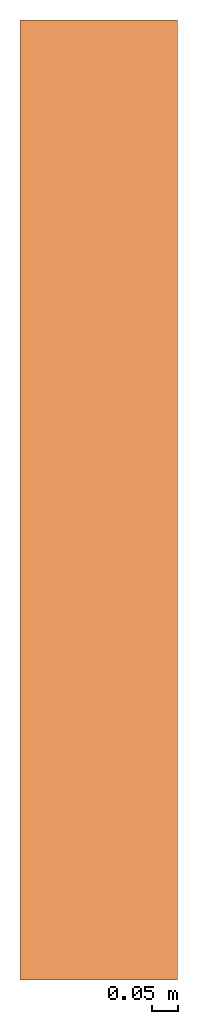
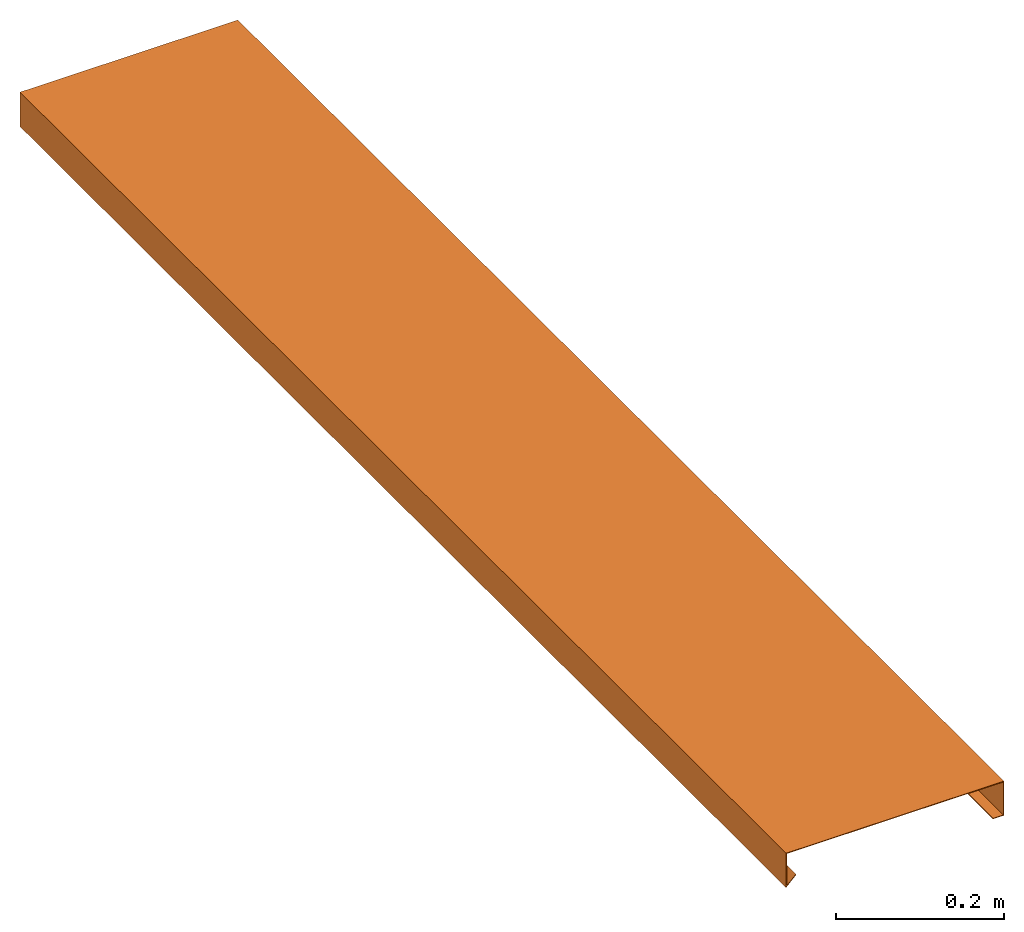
# One storey: 1 proxy.
"""IFC2X3 building model written with IfcOpenShell, lengths in centimetres."""

from ifc_helpers import new_model, entity, si_unit, converted_unit, derived_unit, direction, frame, origin, place, context, subcontext, project, spatial, polyline, outline, extrude, element, save


model = new_model("IFC2X3")

# Units and contexts
model_context = context("Model", 3, precision=0.001, world=origin(), true_north=direction((6.12303176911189e-17, 1.0)))
body_context = subcontext(model_context, "Body", "Model", "MODEL_VIEW")
ifc_project = project(units=[si_unit("LENGTHUNIT", "METRE", prefix="CENTI"), si_unit("AREAUNIT", "SQUARE_METRE"), si_unit("VOLUMEUNIT", "CUBIC_METRE"), converted_unit("PLANEANGLEUNIT", "DEGREE", entity("IfcRatioMeasure", 0.0174532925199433), si_unit("PLANEANGLEUNIT", "RADIAN"), dimensions=[0, 0, 0, 0, 0, 0, 0]), si_unit("MASSUNIT", "GRAM", prefix="KILO"), si_unit("TIMEUNIT", "SECOND"), si_unit("FREQUENCYUNIT", "HERTZ"), si_unit("THERMODYNAMICTEMPERATUREUNIT", "DEGREE_CELSIUS"), derived_unit("THERMALTRANSMITTANCEUNIT", [(si_unit("MASSUNIT", "GRAM", prefix="KILO"), 1), (si_unit("THERMODYNAMICTEMPERATUREUNIT", "KELVIN"), -1), (si_unit("TIMEUNIT", "SECOND"), -3)]), derived_unit("VOLUMETRICFLOWRATEUNIT", [(si_unit("LENGTHUNIT", "METRE"), 3), (si_unit("TIMEUNIT", "SECOND"), -1)]), si_unit("ELECTRICCURRENTUNIT", "AMPERE"), si_unit("ELECTRICVOLTAGEUNIT", "VOLT"), si_unit("POWERUNIT", "WATT"), si_unit("FORCEUNIT", "NEWTON", prefix="KILO"), si_unit("ILLUMINANCEUNIT", "LUX"), si_unit("LUMINOUSFLUXUNIT", "LUMEN"), si_unit("LUMINOUSINTENSITYUNIT", "CANDELA"), derived_unit("USERDEFINED", [(si_unit("MASSUNIT", "GRAM", prefix="KILO"), -1), (si_unit("LENGTHUNIT", "METRE"), -2), (si_unit("TIMEUNIT", "SECOND"), 3), (si_unit("LUMINOUSFLUXUNIT", "LUMEN"), 1)]), derived_unit("LINEARVELOCITYUNIT", [(si_unit("LENGTHUNIT", "METRE"), 1), (si_unit("TIMEUNIT", "SECOND"), -1)]), si_unit("PRESSUREUNIT", "PASCAL"), derived_unit("USERDEFINED", [(si_unit("LENGTHUNIT", "METRE"), -2), (si_unit("MASSUNIT", "GRAM", prefix="KILO"), 1), (si_unit("TIMEUNIT", "SECOND"), -2)])], contexts=[model_context])

# Site, building, storey
site_placement = place(None, frame((8.62739174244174, -249.285249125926, 0.0)))
site = spatial("IfcSite", under=ifc_project, at=site_placement, Name="Default", CompositionType="ELEMENT")
building_placement = place(site_placement, origin())
building = spatial("IfcBuilding", under=site, at=building_placement, CompositionType="ELEMENT")
storey_placement = place(building_placement, frame((0.0, 0.0, 373.0)))
storey = spatial("IfcBuildingStorey", under=building, at=storey_placement, Name="Toiture E1", CompositionType="ELEMENT", Elevation=372.999999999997)

# Proxy
proxy_placement = place(storey_placement, origin())
element("IfcBuildingElementProxy", 1, at=proxy_placement, inside=storey, Name="Profil en relief:profil-couvertine-ex", ObjectType="Profil en relief:profil-couvertine-ex", context=body_context, shape_type="SweptSolid", body=[
    extrude(outline(polyline([(-14.9798097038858, -3.07708620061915), (15.0201902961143, -3.07708620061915), (15.0201902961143, 1.92947315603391), (13.5201902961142, 1.92947315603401), (13.5201902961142, 1.82947315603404), (14.9201902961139, 1.82947315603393), (14.9201902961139, -2.97052684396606), (-14.8798097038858, -2.97052684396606), (-14.8798097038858, 1.68805179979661), (-13.6363068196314, 0.444548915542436), (-13.5655961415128, 0.515259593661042), (-14.9798097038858, 1.9294731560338), (-14.9798097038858, -3.07708620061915)])), frame((3034.42086203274, 1170.27178844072, 424.922913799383), z_axis=(0.0, 1.0, 0.0), x_axis=(1.0, 0.0, 0.0)), (0.0, 0.0, 1.0), 182.70802516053),
])

save(model, "model.ifc")
